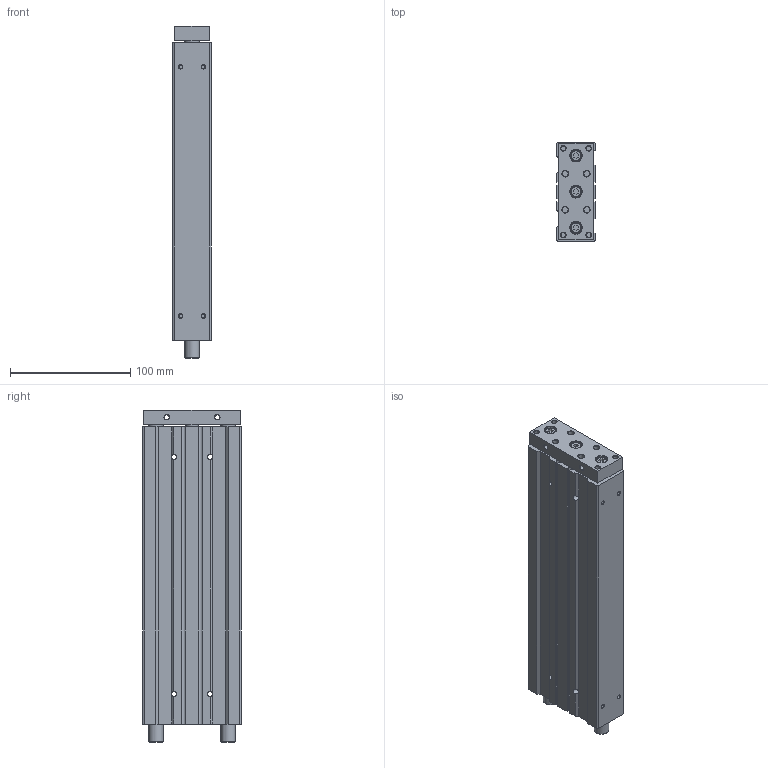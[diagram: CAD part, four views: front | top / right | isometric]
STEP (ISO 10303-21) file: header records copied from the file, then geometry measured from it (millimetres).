
FILE_DESCRIPTION((''),'2;1');
FILE_NAME('I:\3D電子目錄\氣缸\TB(U)\TB(U)20\TB(U)20\TB(U)20x200.stp','2007-08-06T08:21:15',('Administrator'),(''),'Autodesk Inventor 2008','Autodesk Inventor 2008','');
FILE_SCHEMA(('AUTOMOTIVE_DESIGN { 1 0 10303 214 1 1 1 1 }'));
Length unit declared in the file: millimetre
Products named in the file (1): TB(U)20X200
Bounding box: 32 x 82 x 275.9 mm (x, y, z)
Volume: 631130.4 mm3; surface area: 86948.7 mm2
Topology: 1 solids, 1 shells, 188 faces, 424 edges, 268 vertices
Faces by surface type: plane 90, cylinder 50, cone 37, bspline 8, torus 3
Full cylindrical faces by diameter (mm): 3 x4, 4 x6, 4.4 x4, 5 x10, 8 x4, 9 x3, 10 x4, 12 x4, 19 x2, 22 x1
Entity records: 4948 total; most frequent: CARTESIAN_POINT 875, DIRECTION 860, ORIENTED_EDGE 676, AXIS2_PLACEMENT_3D 341, EDGE_CURVE 338, EDGE_LOOP 336, VERTEX_POINT 268, FACE_OUTER_BOUND 188
